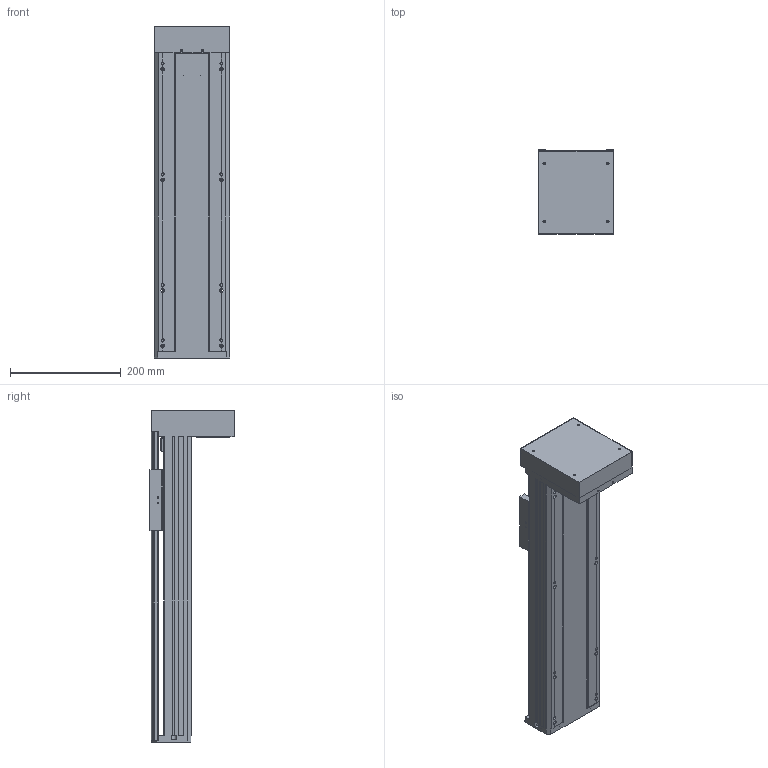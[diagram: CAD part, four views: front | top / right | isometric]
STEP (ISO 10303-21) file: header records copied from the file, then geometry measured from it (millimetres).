
FILE_DESCRIPTION(/* description */ (''),/* implementation_level */ '2;1');
FILE_NAME(/* name */ 'TKA136-FD-350_asm1.stp',/* time_stamp */ '2016-05-07T09:19:03+08:00',/* author */ (''),/* organization */ (''),/* preprocessor_version */ 'ST-DEVELOPER v15',/* originating_system */ 'SIEMENS PLM Software NX 8.5',/* authorisation */ '');
FILE_SCHEMA (('AUTOMOTIVE_DESIGN { 1 0 10303 214 3 1 1 1 }'));
Length unit declared in the file: millimetre
Products named in the file (3): 100-02; 100-01; TKA136-FD-350_asm1
Assembly tree (2 placements, depth 2):
  TKA136-FD-350_asm1
    100-01
    100-02
Bounding box: 136 x 152 x 600 mm (x, y, z)
Volume: 2102967.1 mm3; surface area: 815048.8 mm2
Topology: 2 solids, 13 shells, 912 faces, 2515 edges, 1619 vertices
Faces by surface type: cylinder 427, plane 420, cone 65
Full cylindrical faces by diameter (mm): 3 x2, 3.3 x13, 4 x4, 4.2 x8, 4.5 x14, 5 x8, 5.5 x26, 6.6 x12, 8 x12, 10 x9, 10.5 x8, 11 x4, 11.6 x1, 12 x9, 15 x3, 16 x5, 17 x1, 24 x5, 26 x1, 28 x1, 46 x1, 50 x2
Entity records: 30282 total; most frequent: CARTESIAN_POINT 7724, DIRECTION 4750, ORIENTED_EDGE 4426, EDGE_CURVE 2213, AXIS2_PLACEMENT_3D 1795, VERTEX_POINT 1536, EDGE_LOOP 1282, LINE 1160
